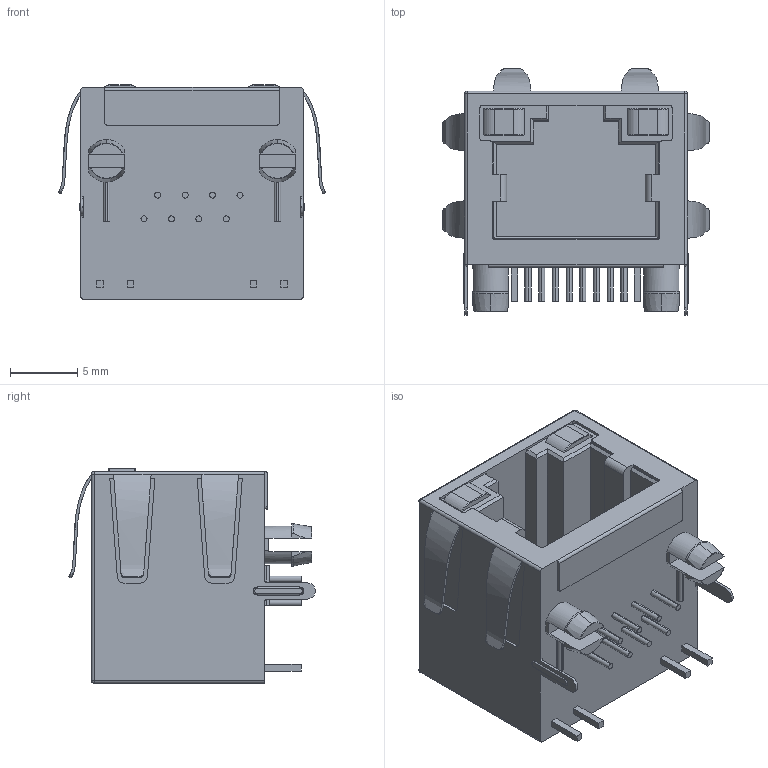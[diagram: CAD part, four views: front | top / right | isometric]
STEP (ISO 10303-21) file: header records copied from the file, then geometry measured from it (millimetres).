
FILE_DESCRIPTION (( 'STEP AP214' ), '1' );
FILE_NAME ('单空口带灯带弹.STEP', '2023-03-13T12:16:19', ( 'Windows 用户' ), ( 'Microsoft' ), 'SwSTEP 2.0', 'SolidWorks 2020', '' );
FILE_SCHEMA (( 'AUTOMOTIVE_DESIGN' ));
Length unit declared in the file: millimetre
Products named in the file (1): 等諾諳湍腑湍粟
Bounding box: 19.89 x 18.33 x 15.95 mm (x, y, z)
Volume: 2468.1 mm3; surface area: 2219.1 mm2
Topology: 1 solids, 1 shells, 339 faces, 893 edges, 574 vertices
Faces by surface type: plane 188, cylinder 107, torus 22, bspline 12, cone 6, sphere 4
Entity records: 11282 total; most frequent: CARTESIAN_POINT 2890, ORIENTED_EDGE 1780, DIRECTION 1692, EDGE_CURVE 890, VERTEX_POINT 574, VECTOR 572, LINE 572, AXIS2_PLACEMENT_3D 560
